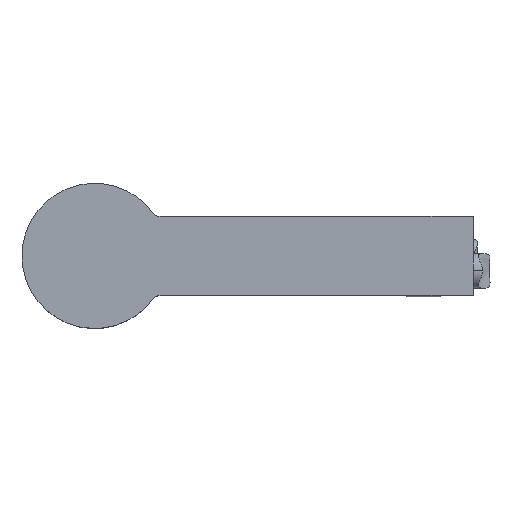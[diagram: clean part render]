
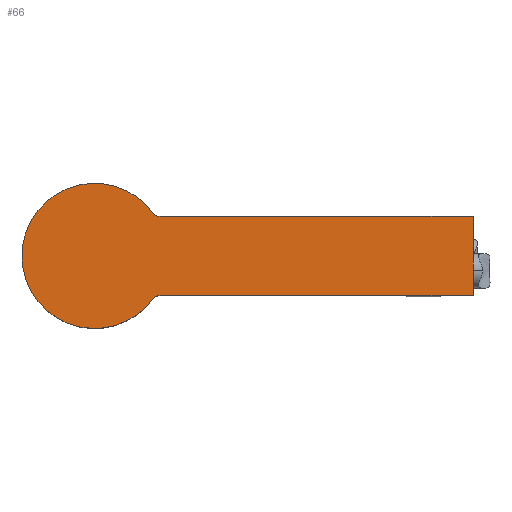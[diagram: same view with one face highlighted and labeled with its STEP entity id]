
A CAD part, top view. The second image highlights one B-rep face of the part: STEP entity #66.
In plain terms, the highlighted planar face has unit normal (0, 0, 1).
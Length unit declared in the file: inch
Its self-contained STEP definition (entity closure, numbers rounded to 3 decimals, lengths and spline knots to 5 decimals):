
#20 = VERTEX_POINT ( 'NONE', #1805 ) ;
#25 = EDGE_CURVE ( 'NONE', #10770, #20, #1800, .T. ) ;
#36 = VERTEX_POINT ( 'NONE', #1786 ) ;
#38 = EDGE_CURVE ( 'NONE', #20, #36, #1785, .T. ) ;
#40 = EDGE_CURVE ( 'NONE', #10226, #10771, #1781, .T. ) ;
#46 = EDGE_CURVE ( 'NONE', #36, #10436, #1831, .T. ) ;
#52 = ORIENTED_EDGE ( 'NONE', *, *, #10184, .F. ) ;
#53 = ORIENTED_EDGE ( 'NONE', *, *, #38, .F. ) ;
#54 = ORIENTED_EDGE ( 'NONE', *, *, #25, .F. ) ;
#55 = ORIENTED_EDGE ( 'NONE', *, *, #46, .F. ) ;
#56 = ORIENTED_EDGE ( 'NONE', *, *, #10767, .T. ) ;
#57 = ORIENTED_EDGE ( 'NONE', *, *, #10434, .T. ) ;
#58 = ORIENTED_EDGE ( 'NONE', *, *, #40, .F. ) ;
#59 = EDGE_LOOP ( 'NONE', ( #57, #55, #53, #54, #56, #58, #52 ) ) ;
#66 = ADVANCED_FACE ( 'NONE', ( #1822 ), #1821, .F. ) ;
#1779 = CARTESIAN_POINT ( 'NONE',  ( 0., 0., 0.82 ) ) ;
#1780 = AXIS2_PLACEMENT_3D ( 'NONE', #1779, #1839, #1838 ) ;
#1781 = CIRCLE ( 'NONE', #1780, 0.575 ) ;
#1782 = DIRECTION ( 'NONE',  ( 0., -1., 0. ) ) ;
#1783 = VECTOR ( 'NONE', #1782, 39.37008 ) ;
#1784 = CARTESIAN_POINT ( 'NONE',  ( 3., 0., 0.82 ) ) ;
#1785 = LINE ( 'NONE', #1784, #1783 ) ;
#1786 = CARTESIAN_POINT ( 'NONE',  ( 3., -0.3125, 0.82 ) ) ;
#1797 = DIRECTION ( 'NONE',  ( 1., 0., 0. ) ) ;
#1798 = VECTOR ( 'NONE', #1797, 39.37008 ) ;
#1799 = CARTESIAN_POINT ( 'NONE',  ( 0., 0.3125, 0.82 ) ) ;
#1800 = LINE ( 'NONE', #1799, #1798 ) ;
#1805 = CARTESIAN_POINT ( 'NONE',  ( 3., 0.3125, 0.82 ) ) ;
#1817 = DIRECTION ( 'NONE',  ( -1., 0., 0. ) ) ;
#1818 = DIRECTION ( 'NONE',  ( 0., 0., -1. ) ) ;
#1819 = CARTESIAN_POINT ( 'NONE',  ( 0., 0., 0.82 ) ) ;
#1820 = AXIS2_PLACEMENT_3D ( 'NONE', #1819, #1818, #1817 ) ;
#1821 = PLANE ( 'NONE',  #1820 ) ;
#1822 = FACE_OUTER_BOUND ( 'NONE', #59, .T. ) ;
#1828 = DIRECTION ( 'NONE',  ( -1., 0., 0. ) ) ;
#1829 = VECTOR ( 'NONE', #1828, 39.37008 ) ;
#1830 = CARTESIAN_POINT ( 'NONE',  ( 0., -0.3125, 0.82 ) ) ;
#1831 = LINE ( 'NONE', #1830, #1829 ) ;
#1838 = DIRECTION ( 'NONE',  ( -1., 0., 0. ) ) ;
#1839 = DIRECTION ( 'NONE',  ( 0., 0., -1. ) ) ;
#8280 = CARTESIAN_POINT ( 'NONE',  ( 0.47356, -0.32613, 0.82 ) ) ;
#8348 = DIRECTION ( 'NONE',  ( -1., 0., 0. ) ) ;
#8349 = DIRECTION ( 'NONE',  ( 0., 0., -1. ) ) ;
#8350 = CARTESIAN_POINT ( 'NONE',  ( 0., 0., 0.82 ) ) ;
#8351 = AXIS2_PLACEMENT_3D ( 'NONE', #8350, #8349, #8348 ) ;
#8352 = CIRCLE ( 'NONE', #8351, 0.575 ) ;
#8447 = CARTESIAN_POINT ( 'NONE',  ( -0.575, 0., 0.82 ) ) ;
#8816 = CARTESIAN_POINT ( 'NONE',  ( 0.53033, -0.4375, 0.82 ) ) ;
#8817 = DIRECTION ( 'NONE',  ( -1., 0., 0. ) ) ;
#8818 = DIRECTION ( 'NONE',  ( 0., 0., -1. ) ) ;
#8819 = AXIS2_PLACEMENT_3D ( 'NONE', #8816, #8818, #8817 ) ;
#8820 = CIRCLE ( 'NONE', #8819, 0.125 ) ;
#8848 = CARTESIAN_POINT ( 'NONE',  ( 0.53033, -0.3125, 0.82 ) ) ;
#9410 = CARTESIAN_POINT ( 'NONE',  ( 0.47356, 0.32613, 0.82 ) ) ;
#9411 = CARTESIAN_POINT ( 'NONE',  ( 0.53033, 0.3125, 0.82 ) ) ;
#9413 = DIRECTION ( 'NONE',  ( -1., 0., 0. ) ) ;
#9414 = DIRECTION ( 'NONE',  ( 0., 0., -1. ) ) ;
#9415 = CARTESIAN_POINT ( 'NONE',  ( 0.53033, 0.4375, 0.82 ) ) ;
#9416 = AXIS2_PLACEMENT_3D ( 'NONE', #9415, #9414, #9413 ) ;
#9417 = CIRCLE ( 'NONE', #9416, 0.125 ) ;
#10172 = VERTEX_POINT ( 'NONE', #8280 ) ;
#10184 = EDGE_CURVE ( 'NONE', #10172, #10226, #8352, .T. ) ;
#10226 = VERTEX_POINT ( 'NONE', #8447 ) ;
#10434 = EDGE_CURVE ( 'NONE', #10172, #10436, #8820, .T. ) ;
#10436 = VERTEX_POINT ( 'NONE', #8848 ) ;
#10767 = EDGE_CURVE ( 'NONE', #10770, #10771, #9417, .T. ) ;
#10770 = VERTEX_POINT ( 'NONE', #9411 ) ;
#10771 = VERTEX_POINT ( 'NONE', #9410 ) ;
